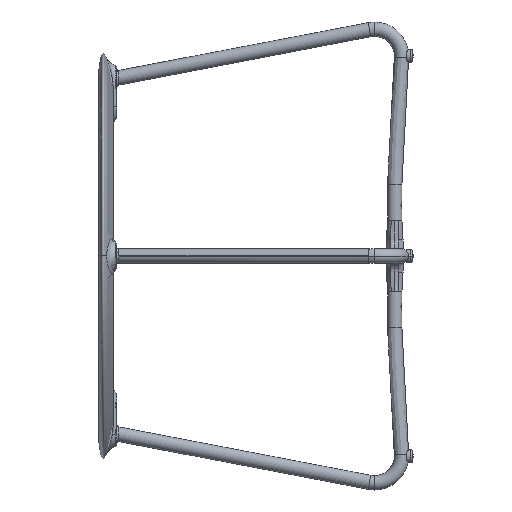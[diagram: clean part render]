
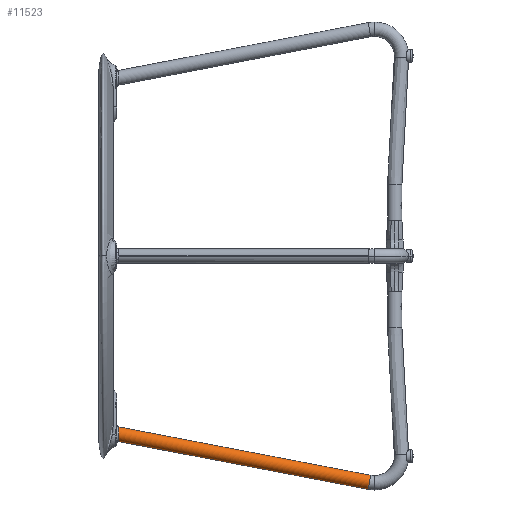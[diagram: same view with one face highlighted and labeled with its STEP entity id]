
A CAD part, left-side view. The second image highlights one B-rep face of the part: STEP entity #11523.
In plain terms, the highlighted cylindrical face has radius 8 mm (diameter 16 mm), a partial arc.
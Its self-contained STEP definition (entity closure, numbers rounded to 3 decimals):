
#1233 = CARTESIAN_POINT ( 'NONE',  ( -190.238, 328.377, 0. ) ) ;
#3136 = ORIENTED_EDGE ( 'NONE', *, *, #14193, .T. ) ;
#3901 = DIRECTION ( 'NONE',  ( 0.188, 0.982, 0. ) ) ;
#3930 = CARTESIAN_POINT ( 'NONE',  ( -259.913, 50.117, 0. ) ) ;
#4136 = CARTESIAN_POINT ( 'NONE',  ( -205.701, 327.668, 3.777 ) ) ;
#6032 = ORIENTED_EDGE ( 'NONE', *, *, #30486, .T. ) ;
#7407 = CARTESIAN_POINT ( 'NONE',  ( -206.674, 327.628, 0.329 ) ) ;
#7980 = DIRECTION ( 'NONE',  ( 0.188, 0.982, 0. ) ) ;
#10705 = VERTEX_POINT ( 'NONE', #28047 ) ;
#11523 = ADVANCED_FACE ( 'NONE', ( #25067 ), #38662, .T. ) ;
#11727 = DIRECTION ( 'NONE',  ( -0.982, 0.188, 0. ) ) ;
#12992 = AXIS2_PLACEMENT_3D ( 'NONE', #28179, #27970, #41782 ) ;
#14193 = EDGE_CURVE ( 'NONE', #15387, #22320, #43390, .T. ) ;
#14535 = CARTESIAN_POINT ( 'NONE',  ( -206.265, 327.643, 2.578 ) ) ;
#14612 = CARTESIAN_POINT ( 'NONE',  ( -190.238, 328.377, 10.438 ) ) ;
#15230 = EDGE_LOOP ( 'NONE', ( #6032, #15403, #18801, #3136, #28799 ) ) ;
#15387 = VERTEX_POINT ( 'NONE', #34147 ) ;
#15403 = ORIENTED_EDGE ( 'NONE', *, *, #33524, .T. ) ;
#16906 = CARTESIAN_POINT ( 'NONE',  ( -206.674, 327.628, 0. ) ) ;
#17416 = VERTEX_POINT ( 'NONE', #3930 ) ;
#18301 = VECTOR ( 'NONE', #7980, 1000. ) ;
#18801 = ORIENTED_EDGE ( 'NONE', *, *, #30816, .T. ) ;
#20695 = EDGE_CURVE ( 'NONE', #17416, #22320, #29327, .T. ) ;
#21734 = DIRECTION ( 'NONE',  ( 0.188, 0.982, 0. ) ) ;
#22190 = CARTESIAN_POINT ( 'NONE',  ( -252.056, 48.61, 0. ) ) ;
#22320 = VERTEX_POINT ( 'NONE', #16906 ) ;
#23462 = AXIS2_PLACEMENT_3D ( 'NONE', #22190, #21734, #11727 ) ;
#24323 = CARTESIAN_POINT ( 'NONE',  ( -206.653, 327.629, 0.66 ) ) ;
#24971 = CARTESIAN_POINT ( 'NONE',  ( -206.508, 327.634, 1.63 ) ) ;
#25037 = LINE ( 'NONE', #38841, #35714 ) ;
#25067 = FACE_OUTER_BOUND ( 'NONE', #15230, .T. ) ;
#25545 = CARTESIAN_POINT ( 'NONE',  ( -259.913, 50.117, 0. ) ) ;
#26775 = VERTEX_POINT ( 'NONE', #37336 ) ;
#27184 = CIRCLE ( 'NONE', #12992, 8. ) ;
#27970 = DIRECTION ( 'NONE',  ( 0.188, 0.982, 0. ) ) ;
#28047 = CARTESIAN_POINT ( 'NONE',  ( -244.199, 47.103, 0. ) ) ;
#28161 = CARTESIAN_POINT ( 'NONE',  ( -200.638, 327.9, 12.978 ) ) ;
#28179 = CARTESIAN_POINT ( 'NONE',  ( -252.056, 48.61, 0. ) ) ;
#28799 = ORIENTED_EDGE ( 'NONE', *, *, #20695, .F. ) ;
#29327 = LINE ( 'NONE', #25545, #18301 ) ;
#30486 = EDGE_CURVE ( 'NONE', #17416, #10705, #27184, .T. ) ;
#30816 = EDGE_CURVE ( 'NONE', #26775, #15387, #38700, .T. ) ;
#33524 = EDGE_CURVE ( 'NONE', #10705, #26775, #25037, .T. ) ;
#34147 = CARTESIAN_POINT ( 'NONE',  ( -205.701, 327.668, 3.777 ) ) ;
#35714 = VECTOR ( 'NONE', #3901, 1000. ) ;
#37336 = CARTESIAN_POINT ( 'NONE',  ( -190.238, 328.377, 0. ) ) ;
#38565 = CARTESIAN_POINT ( 'NONE',  ( -206.57, 327.632, 1.31 ) ) ;
#38662 = CYLINDRICAL_SURFACE ( 'NONE', #23462, 8. ) ;
#38700 =( BOUNDED_CURVE ( )  B_SPLINE_CURVE ( 3, ( #1233, #14612, #28161, #4136 ),
 .UNSPECIFIED., .F., .F. ) 
 B_SPLINE_CURVE_WITH_KNOTS ( ( 4, 4 ),
 ( 0., 2.65 ),
 .UNSPECIFIED. ) 
 CURVE ( )  GEOMETRIC_REPRESENTATION_ITEM ( )  RATIONAL_B_SPLINE_CURVE ( ( 1., 0.496, 0.496, 1. ) ) 
 REPRESENTATION_ITEM ( '' )  );
#38841 = CARTESIAN_POINT ( 'NONE',  ( -244.199, 47.103, 0. ) ) ;
#41683 = CARTESIAN_POINT ( 'NONE',  ( -206.674, 327.628, 0. ) ) ;
#41782 = DIRECTION ( 'NONE',  ( -0.982, 0.188, 0. ) ) ;
#41900 = CARTESIAN_POINT ( 'NONE',  ( -206.02, 327.653, 3.198 ) ) ;
#42114 = CARTESIAN_POINT ( 'NONE',  ( -205.701, 327.668, 3.777 ) ) ;
#43390 = B_SPLINE_CURVE_WITH_KNOTS ( 'NONE', 3,
 ( #42114, #41900, #14535, #24971, #38565, #24323, #7407, #41683 ),
 .UNSPECIFIED., .F., .F.,
 ( 4, 2, 2, 4 ),
 ( 0., 0.002, 0.003, 0.004 ),
 .UNSPECIFIED. ) ;
